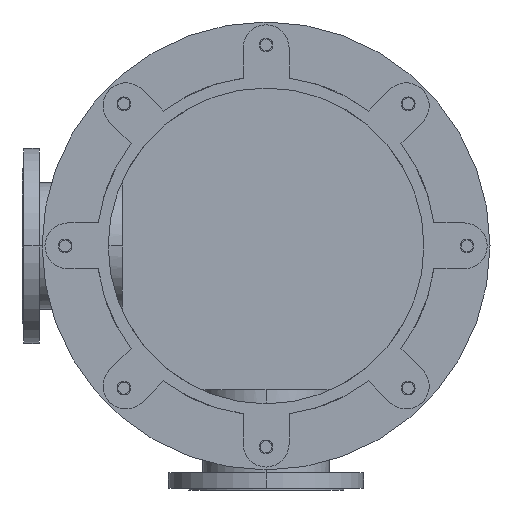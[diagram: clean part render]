
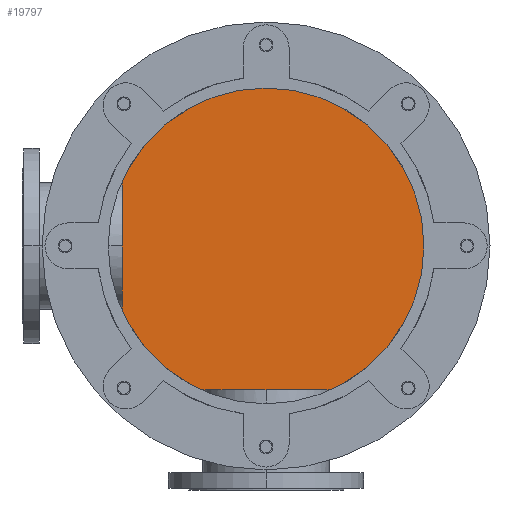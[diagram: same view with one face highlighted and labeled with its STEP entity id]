
A CAD part, front view. The second image highlights one B-rep face of the part: STEP entity #19797.
In plain terms, the highlighted planar face has unit normal (0, -1, 0).
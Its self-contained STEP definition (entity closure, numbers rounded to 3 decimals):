
#3712=CARTESIAN_POINT('',(0.,1117.,0.));
#3713=DIRECTION('',(0.,-1.,0.));
#3714=DIRECTION('',(0.,0.,-1.));
#3715=AXIS2_PLACEMENT_3D('',#3712,#3713,#3714);
#4099=CARTESIAN_POINT('',(0.,1117.,0.));
#4100=DIRECTION('',(0.,-1.,0.));
#4101=DIRECTION('',(0.,0.,1.));
#4102=AXIS2_PLACEMENT_3D('',#4099,#4100,#4101);
#9176=CARTESIAN_POINT('',(0.,1117.,290.));
#9177=CARTESIAN_POINT('',(0.,1117.,-290.));
#9178=VERTEX_POINT('',#9176);
#9179=VERTEX_POINT('',#9177);
#19788=CARTESIAN_POINT('',(0.,1117.,0.));
#19789=DIRECTION('',(0.,1.,0.));
#19790=DIRECTION('',(0.,0.,-1.));
#19791=AXIS2_PLACEMENT_3D('',#19788,#19789,#19790);
#19792=PLANE('',#19791);
#19793=ORIENTED_EDGE('',*,*,#15866,.F.);
#19794=ORIENTED_EDGE('',*,*,#15556,.F.);
#19795=EDGE_LOOP('',(#19793,#19794));
#19796=FACE_OUTER_BOUND('',#19795,.F.);
#19797=ADVANCED_FACE('',(#19796),#19792,.F.);
#3716=CIRCLE('',#3715,290.);
#4103=CIRCLE('',#4102,290.);
#15556=EDGE_CURVE('',#9179,#9178,#3716,.T.);
#15866=EDGE_CURVE('',#9178,#9179,#4103,.T.);
